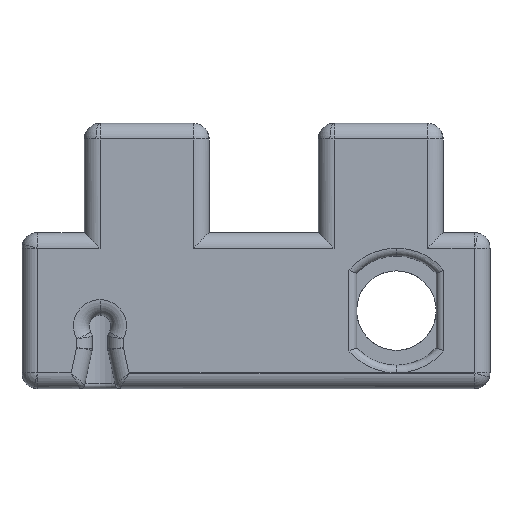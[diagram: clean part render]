
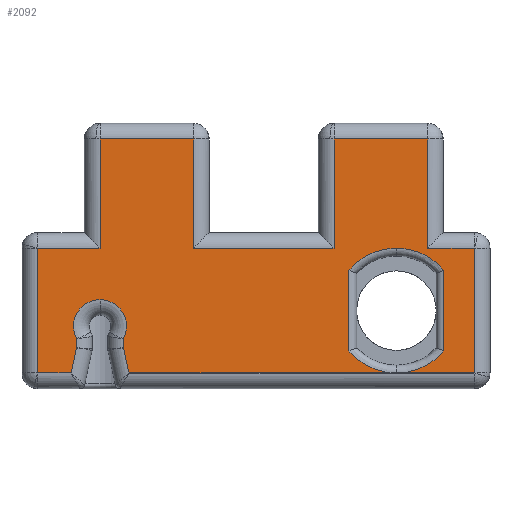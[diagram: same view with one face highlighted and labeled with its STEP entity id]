
A CAD part, front view. The second image highlights one B-rep face of the part: STEP entity #2092.
In plain terms, the highlighted planar face has unit normal (0, -1, 0).
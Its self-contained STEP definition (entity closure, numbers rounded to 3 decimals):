
#1904=AXIS2_PLACEMENT_3D('Plane Axis2P3D',#1901,#1902,#1903) ;
#1943=AXIS2_PLACEMENT_3D('Circle Axis2P3D',#1941,#1942,$) ;
#1950=AXIS2_PLACEMENT_3D('Circle Axis2P3D',#1948,#1949,$) ;
#2044=AXIS2_PLACEMENT_3D('Circle Axis2P3D',#2042,#2043,$) ;
#2060=AXIS2_PLACEMENT_3D('Circle Axis2P3D',#2058,#2059,$) ;
#2067=AXIS2_PLACEMENT_3D('Circle Axis2P3D',#2065,#2066,$) ;
#2081=AXIS2_PLACEMENT_3D('Circle Axis2P3D',#2079,#2080,$) ;
#868=CARTESIAN_POINT('Line Origine',(-14.3,50.563,-9.)) ;
#872=CARTESIAN_POINT('Vertex',(-26.843,50.563,-9.)) ;
#874=CARTESIAN_POINT('Vertex',(-29.,50.563,-9.)) ;
#1022=CARTESIAN_POINT('Vertex',(-1.,50.563,-9.)) ;
#1025=CARTESIAN_POINT('Line Origine',(-15.,50.563,-9.)) ;
#1029=CARTESIAN_POINT('Vertex',(-23.157,50.563,-9.)) ;
#1901=CARTESIAN_POINT('Axis2P3D Location',(0.,50.563,0.)) ;
#1906=CARTESIAN_POINT('Line Origine',(-25.,50.563,2.5)) ;
#1910=CARTESIAN_POINT('Vertex',(-25.,50.563,6.)) ;
#1912=CARTESIAN_POINT('Vertex',(-25.,50.563,-1.)) ;
#1915=CARTESIAN_POINT('Line Origine',(-27.,50.563,-1.)) ;
#1919=CARTESIAN_POINT('Vertex',(-29.,50.563,-1.)) ;
#1922=CARTESIAN_POINT('Line Origine',(-29.,50.563,-5.)) ;
#1927=CARTESIAN_POINT('Line Origine',(-26.672,50.563,-8.192)) ;
#1931=CARTESIAN_POINT('Vertex',(-26.5,50.563,-7.385)) ;
#1934=CARTESIAN_POINT('Line Origine',(-26.5,50.563,-7.092)) ;
#1938=CARTESIAN_POINT('Vertex',(-26.5,50.563,-6.8)) ;
#1941=CARTESIAN_POINT('Axis2P3D Location',(-25.,50.563,-6.)) ;
#1945=CARTESIAN_POINT('Vertex',(-25.,50.563,-4.3)) ;
#1948=CARTESIAN_POINT('Axis2P3D Location',(-25.,50.563,-6.)) ;
#1952=CARTESIAN_POINT('Vertex',(-23.5,50.563,-6.8)) ;
#1955=CARTESIAN_POINT('Line Origine',(-23.5,50.563,-7.092)) ;
#1959=CARTESIAN_POINT('Vertex',(-23.5,50.563,-7.385)) ;
#1962=CARTESIAN_POINT('Line Origine',(-23.328,50.563,-8.192)) ;
#1967=CARTESIAN_POINT('Line Origine',(-1.,50.563,-5.)) ;
#1971=CARTESIAN_POINT('Vertex',(-1.,50.563,-1.)) ;
#1974=CARTESIAN_POINT('Line Origine',(-2.5,50.563,-1.)) ;
#1978=CARTESIAN_POINT('Vertex',(-4.,50.563,-1.)) ;
#1981=CARTESIAN_POINT('Line Origine',(-4.,50.563,2.5)) ;
#1985=CARTESIAN_POINT('Vertex',(-4.,50.563,6.)) ;
#1988=CARTESIAN_POINT('Line Origine',(-7.,50.563,6.)) ;
#1992=CARTESIAN_POINT('Vertex',(-10.,50.563,6.)) ;
#1995=CARTESIAN_POINT('Line Origine',(-10.,50.563,2.5)) ;
#1999=CARTESIAN_POINT('Vertex',(-10.,50.563,-1.)) ;
#2002=CARTESIAN_POINT('Line Origine',(-14.5,50.563,-1.)) ;
#2006=CARTESIAN_POINT('Vertex',(-19.,50.563,-1.)) ;
#2009=CARTESIAN_POINT('Line Origine',(-19.,50.563,2.5)) ;
#2013=CARTESIAN_POINT('Vertex',(-19.,50.563,6.)) ;
#2016=CARTESIAN_POINT('Line Origine',(-22.,50.563,6.)) ;
#2042=CARTESIAN_POINT('Axis2P3D Location',(-6.,50.563,-5.)) ;
#2046=CARTESIAN_POINT('Vertex',(-6.,50.563,-9.)) ;
#2048=CARTESIAN_POINT('Vertex',(-9.05,50.563,-7.588)) ;
#2051=CARTESIAN_POINT('Line Origine',(-9.05,50.563,-5.)) ;
#2055=CARTESIAN_POINT('Vertex',(-9.05,50.563,-2.412)) ;
#2058=CARTESIAN_POINT('Axis2P3D Location',(-6.,50.563,-5.)) ;
#2062=CARTESIAN_POINT('Vertex',(-6.,50.563,-1.)) ;
#2065=CARTESIAN_POINT('Axis2P3D Location',(-6.,50.563,-5.)) ;
#2069=CARTESIAN_POINT('Vertex',(-2.95,50.563,-2.412)) ;
#2072=CARTESIAN_POINT('Line Origine',(-2.95,50.563,-5.)) ;
#2076=CARTESIAN_POINT('Vertex',(-2.95,50.563,-7.588)) ;
#2079=CARTESIAN_POINT('Axis2P3D Location',(-6.,50.563,-5.)) ;
#869=DIRECTION('Vector Direction',(-1.,0.,0.)) ;
#1026=DIRECTION('Vector Direction',(-1.,0.,0.)) ;
#1902=DIRECTION('Axis2P3D Direction',(0.,1.,0.)) ;
#1903=DIRECTION('Axis2P3D XDirection',(0.,0.,-1.)) ;
#1907=DIRECTION('Vector Direction',(0.,0.,1.)) ;
#1916=DIRECTION('Vector Direction',(1.,0.,0.)) ;
#1923=DIRECTION('Vector Direction',(0.,0.,-1.)) ;
#1928=DIRECTION('Vector Direction',(-0.208,0.,-0.978)) ;
#1935=DIRECTION('Vector Direction',(0.,0.,-1.)) ;
#1942=DIRECTION('Axis2P3D Direction',(0.,1.,0.)) ;
#1949=DIRECTION('Axis2P3D Direction',(0.,1.,0.)) ;
#1956=DIRECTION('Vector Direction',(0.,0.,-1.)) ;
#1963=DIRECTION('Vector Direction',(0.208,0.,-0.978)) ;
#1968=DIRECTION('Vector Direction',(0.,0.,-1.)) ;
#1975=DIRECTION('Vector Direction',(-1.,0.,0.)) ;
#1982=DIRECTION('Vector Direction',(0.,0.,1.)) ;
#1989=DIRECTION('Vector Direction',(-1.,0.,0.)) ;
#1996=DIRECTION('Vector Direction',(0.,0.,1.)) ;
#2003=DIRECTION('Vector Direction',(-1.,0.,0.)) ;
#2010=DIRECTION('Vector Direction',(0.,0.,1.)) ;
#2017=DIRECTION('Vector Direction',(-1.,0.,0.)) ;
#2043=DIRECTION('Axis2P3D Direction',(0.,1.,0.)) ;
#2052=DIRECTION('Vector Direction',(0.,0.,-1.)) ;
#2059=DIRECTION('Axis2P3D Direction',(0.,1.,0.)) ;
#2066=DIRECTION('Axis2P3D Direction',(0.,1.,0.)) ;
#2073=DIRECTION('Vector Direction',(0.,0.,-1.)) ;
#2080=DIRECTION('Axis2P3D Direction',(0.,1.,0.)) ;
#870=VECTOR('Line Direction',#869,1.) ;
#1027=VECTOR('Line Direction',#1026,1.) ;
#1908=VECTOR('Line Direction',#1907,1.) ;
#1917=VECTOR('Line Direction',#1916,1.) ;
#1924=VECTOR('Line Direction',#1923,1.) ;
#1929=VECTOR('Line Direction',#1928,1.) ;
#1936=VECTOR('Line Direction',#1935,1.) ;
#1957=VECTOR('Line Direction',#1956,1.) ;
#1964=VECTOR('Line Direction',#1963,1.) ;
#1969=VECTOR('Line Direction',#1968,1.) ;
#1976=VECTOR('Line Direction',#1975,1.) ;
#1983=VECTOR('Line Direction',#1982,1.) ;
#1990=VECTOR('Line Direction',#1989,1.) ;
#1997=VECTOR('Line Direction',#1996,1.) ;
#2004=VECTOR('Line Direction',#2003,1.) ;
#2011=VECTOR('Line Direction',#2010,1.) ;
#2018=VECTOR('Line Direction',#2017,1.) ;
#2053=VECTOR('Line Direction',#2052,1.) ;
#2074=VECTOR('Line Direction',#2073,1.) ;
#2022=ORIENTED_EDGE('',*,*,#1914,.T.) ;
#2023=ORIENTED_EDGE('',*,*,#1921,.F.) ;
#2024=ORIENTED_EDGE('',*,*,#1926,.F.) ;
#2025=ORIENTED_EDGE('',*,*,#876,.F.) ;
#2026=ORIENTED_EDGE('',*,*,#1933,.F.) ;
#2027=ORIENTED_EDGE('',*,*,#1940,.F.) ;
#2028=ORIENTED_EDGE('',*,*,#1947,.F.) ;
#2029=ORIENTED_EDGE('',*,*,#1954,.F.) ;
#2030=ORIENTED_EDGE('',*,*,#1961,.F.) ;
#2031=ORIENTED_EDGE('',*,*,#1966,.F.) ;
#2032=ORIENTED_EDGE('',*,*,#1031,.F.) ;
#2033=ORIENTED_EDGE('',*,*,#1973,.F.) ;
#2034=ORIENTED_EDGE('',*,*,#1980,.F.) ;
#2035=ORIENTED_EDGE('',*,*,#1987,.T.) ;
#2036=ORIENTED_EDGE('',*,*,#1994,.T.) ;
#2037=ORIENTED_EDGE('',*,*,#2001,.T.) ;
#2038=ORIENTED_EDGE('',*,*,#2008,.F.) ;
#2039=ORIENTED_EDGE('',*,*,#2015,.T.) ;
#2040=ORIENTED_EDGE('',*,*,#2020,.T.) ;
#2085=ORIENTED_EDGE('',*,*,#2050,.T.) ;
#2086=ORIENTED_EDGE('',*,*,#2057,.T.) ;
#2087=ORIENTED_EDGE('',*,*,#2064,.T.) ;
#2088=ORIENTED_EDGE('',*,*,#2071,.T.) ;
#2089=ORIENTED_EDGE('',*,*,#2078,.T.) ;
#2090=ORIENTED_EDGE('',*,*,#2083,.T.) ;
#2091=FACE_BOUND('',#2084,.T.) ;
#2092=ADVANCED_FACE('\X2\96F64EF651E04F554F53\X0\',(#2041,#2091),#1905,.F.) ;
#1944=CIRCLE('generated circle',#1943,1.7) ;
#1951=CIRCLE('generated circle',#1950,1.7) ;
#2045=CIRCLE('generated circle',#2044,4.) ;
#2061=CIRCLE('generated circle',#2060,4.) ;
#2068=CIRCLE('generated circle',#2067,4.) ;
#2082=CIRCLE('generated circle',#2081,4.) ;
#876=EDGE_CURVE('',#873,#875,#871,.T.) ;
#1031=EDGE_CURVE('',#1023,#1030,#1028,.T.) ;
#1914=EDGE_CURVE('',#1911,#1913,#1909,.F.) ;
#1921=EDGE_CURVE('',#1920,#1913,#1918,.T.) ;
#1926=EDGE_CURVE('',#875,#1920,#1925,.F.) ;
#1933=EDGE_CURVE('',#1932,#873,#1930,.T.) ;
#1940=EDGE_CURVE('',#1939,#1932,#1937,.T.) ;
#1947=EDGE_CURVE('',#1946,#1939,#1944,.F.) ;
#1954=EDGE_CURVE('',#1953,#1946,#1951,.F.) ;
#1961=EDGE_CURVE('',#1960,#1953,#1958,.F.) ;
#1966=EDGE_CURVE('',#1030,#1960,#1965,.F.) ;
#1973=EDGE_CURVE('',#1972,#1023,#1970,.T.) ;
#1980=EDGE_CURVE('',#1979,#1972,#1977,.F.) ;
#1987=EDGE_CURVE('',#1979,#1986,#1984,.T.) ;
#1994=EDGE_CURVE('',#1986,#1993,#1991,.T.) ;
#2001=EDGE_CURVE('',#1993,#2000,#1998,.F.) ;
#2008=EDGE_CURVE('',#2007,#2000,#2005,.F.) ;
#2015=EDGE_CURVE('',#2007,#2014,#2012,.T.) ;
#2020=EDGE_CURVE('',#2014,#1911,#2019,.T.) ;
#2050=EDGE_CURVE('',#2047,#2049,#2045,.T.) ;
#2057=EDGE_CURVE('',#2049,#2056,#2054,.F.) ;
#2064=EDGE_CURVE('',#2056,#2063,#2061,.T.) ;
#2071=EDGE_CURVE('',#2063,#2070,#2068,.T.) ;
#2078=EDGE_CURVE('',#2070,#2077,#2075,.T.) ;
#2083=EDGE_CURVE('',#2077,#2047,#2082,.T.) ;
#2021=EDGE_LOOP('',(#2022,#2023,#2024,#2025,#2026,#2027,#2028,#2029,#2030,#2031,#2032,#2033,#2034,#2035,#2036,#2037,#2038,#2039,#2040)) ;
#2084=EDGE_LOOP('',(#2085,#2086,#2087,#2088,#2089,#2090)) ;
#2041=FACE_OUTER_BOUND('',#2021,.T.) ;
#871=LINE('Line',#868,#870) ;
#1028=LINE('Line',#1025,#1027) ;
#1909=LINE('Line',#1906,#1908) ;
#1918=LINE('Line',#1915,#1917) ;
#1925=LINE('Line',#1922,#1924) ;
#1930=LINE('Line',#1927,#1929) ;
#1937=LINE('Line',#1934,#1936) ;
#1958=LINE('Line',#1955,#1957) ;
#1965=LINE('Line',#1962,#1964) ;
#1970=LINE('Line',#1967,#1969) ;
#1977=LINE('Line',#1974,#1976) ;
#1984=LINE('Line',#1981,#1983) ;
#1991=LINE('Line',#1988,#1990) ;
#1998=LINE('Line',#1995,#1997) ;
#2005=LINE('Line',#2002,#2004) ;
#2012=LINE('Line',#2009,#2011) ;
#2019=LINE('Line',#2016,#2018) ;
#2054=LINE('Line',#2051,#2053) ;
#2075=LINE('Line',#2072,#2074) ;
#1905=PLANE('Plane',#1904) ;
#873=VERTEX_POINT('',#872) ;
#875=VERTEX_POINT('',#874) ;
#1023=VERTEX_POINT('',#1022) ;
#1030=VERTEX_POINT('',#1029) ;
#1911=VERTEX_POINT('',#1910) ;
#1913=VERTEX_POINT('',#1912) ;
#1920=VERTEX_POINT('',#1919) ;
#1932=VERTEX_POINT('',#1931) ;
#1939=VERTEX_POINT('',#1938) ;
#1946=VERTEX_POINT('',#1945) ;
#1953=VERTEX_POINT('',#1952) ;
#1960=VERTEX_POINT('',#1959) ;
#1972=VERTEX_POINT('',#1971) ;
#1979=VERTEX_POINT('',#1978) ;
#1986=VERTEX_POINT('',#1985) ;
#1993=VERTEX_POINT('',#1992) ;
#2000=VERTEX_POINT('',#1999) ;
#2007=VERTEX_POINT('',#2006) ;
#2014=VERTEX_POINT('',#2013) ;
#2047=VERTEX_POINT('',#2046) ;
#2049=VERTEX_POINT('',#2048) ;
#2056=VERTEX_POINT('',#2055) ;
#2063=VERTEX_POINT('',#2062) ;
#2070=VERTEX_POINT('',#2069) ;
#2077=VERTEX_POINT('',#2076) ;
